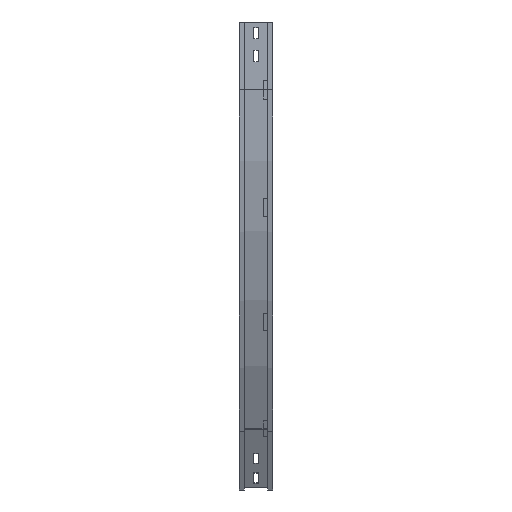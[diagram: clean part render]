
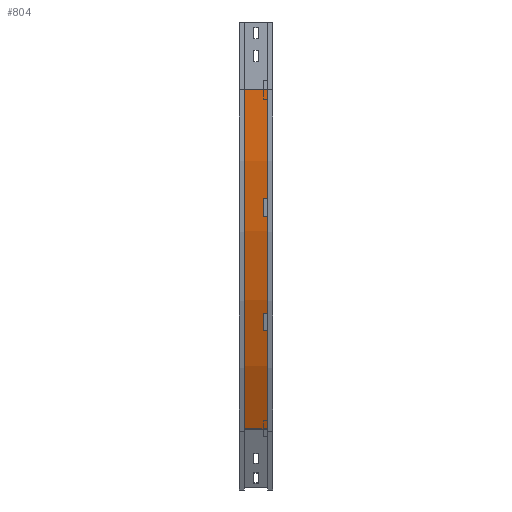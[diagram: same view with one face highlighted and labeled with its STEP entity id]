
A CAD part, left-side view. The second image highlights one B-rep face of the part: STEP entity #804.
In plain terms, the highlighted cylindrical face has radius 1500 mm (diameter 3000 mm), a partial arc.
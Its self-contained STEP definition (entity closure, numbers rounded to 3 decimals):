
#8 = VERTEX_POINT ( 'NONE', #3367 ) ;
#170 = ORIENTED_EDGE ( 'NONE', *, *, #2781, .T. ) ;
#189 = CARTESIAN_POINT ( 'NONE',  ( 9., 12., -150. ) ) ;
#252 = AXIS2_PLACEMENT_3D ( 'NONE', #2658, #1122, #1890 ) ;
#298 = CARTESIAN_POINT ( 'NONE',  ( 1509., 12., -150. ) ) ;
#452 = EDGE_CURVE ( 'NONE', #8, #1861, #617, .T. ) ;
#617 = CIRCLE ( 'NONE', #2870, 1500. ) ;
#661 = DIRECTION ( 'NONE',  ( 0., -1., 0. ) ) ;
#804 = ADVANCED_FACE ( 'NONE', ( #909 ), #3003, .T. ) ;
#870 = ORIENTED_EDGE ( 'NONE', *, *, #2945, .T. ) ;
#880 = LINE ( 'NONE', #2972, #2843 ) ;
#909 = FACE_OUTER_BOUND ( 'NONE', #1978, .T. ) ;
#1063 = CARTESIAN_POINT ( 'NONE',  ( 9., 63., -150. ) ) ;
#1122 = DIRECTION ( 'NONE',  ( 0., -1., 0. ) ) ;
#1136 = DIRECTION ( 'NONE',  ( 0., -1., 0. ) ) ;
#1177 = EDGE_CURVE ( 'NONE', #2708, #8, #2579, .T. ) ;
#1390 = DIRECTION ( 'NONE',  ( 0., -1., 0. ) ) ;
#1630 = CARTESIAN_POINT ( 'NONE',  ( 1509., 0., -150. ) ) ;
#1676 = ORIENTED_EDGE ( 'NONE', *, *, #1177, .F. ) ;
#1861 = VERTEX_POINT ( 'NONE', #2244 ) ;
#1890 = DIRECTION ( 'NONE',  ( -1., 0., 0. ) ) ;
#1978 = EDGE_LOOP ( 'NONE', ( #2929, #1676, #170, #870 ) ) ;
#2050 = DIRECTION ( 'NONE',  ( 0., -1., 0. ) ) ;
#2075 = CARTESIAN_POINT ( 'NONE',  ( 209.962, 63., -900. ) ) ;
#2244 = CARTESIAN_POINT ( 'NONE',  ( 209.962, 12., -900. ) ) ;
#2579 = LINE ( 'NONE', #189, #2726 ) ;
#2658 = CARTESIAN_POINT ( 'NONE',  ( 1509., 63., -150. ) ) ;
#2672 = DIRECTION ( 'NONE',  ( 0., 0., -1. ) ) ;
#2708 = VERTEX_POINT ( 'NONE', #1063 ) ;
#2726 = VECTOR ( 'NONE', #2050, 1000. ) ;
#2781 = EDGE_CURVE ( 'NONE', #2708, #3072, #2958, .T. ) ;
#2843 = VECTOR ( 'NONE', #661, 1000. ) ;
#2870 = AXIS2_PLACEMENT_3D ( 'NONE', #298, #1390, #2943 ) ;
#2929 = ORIENTED_EDGE ( 'NONE', *, *, #452, .F. ) ;
#2943 = DIRECTION ( 'NONE',  ( -1., 0., 0. ) ) ;
#2945 = EDGE_CURVE ( 'NONE', #3072, #1861, #880, .T. ) ;
#2958 = CIRCLE ( 'NONE', #252, 1500. ) ;
#2972 = CARTESIAN_POINT ( 'NONE',  ( 209.962, 12., -900. ) ) ;
#3003 = CYLINDRICAL_SURFACE ( 'NONE', #3106, 1500. ) ;
#3072 = VERTEX_POINT ( 'NONE', #2075 ) ;
#3106 = AXIS2_PLACEMENT_3D ( 'NONE', #1630, #1136, #2672 ) ;
#3367 = CARTESIAN_POINT ( 'NONE',  ( 9., 12., -150. ) ) ;
